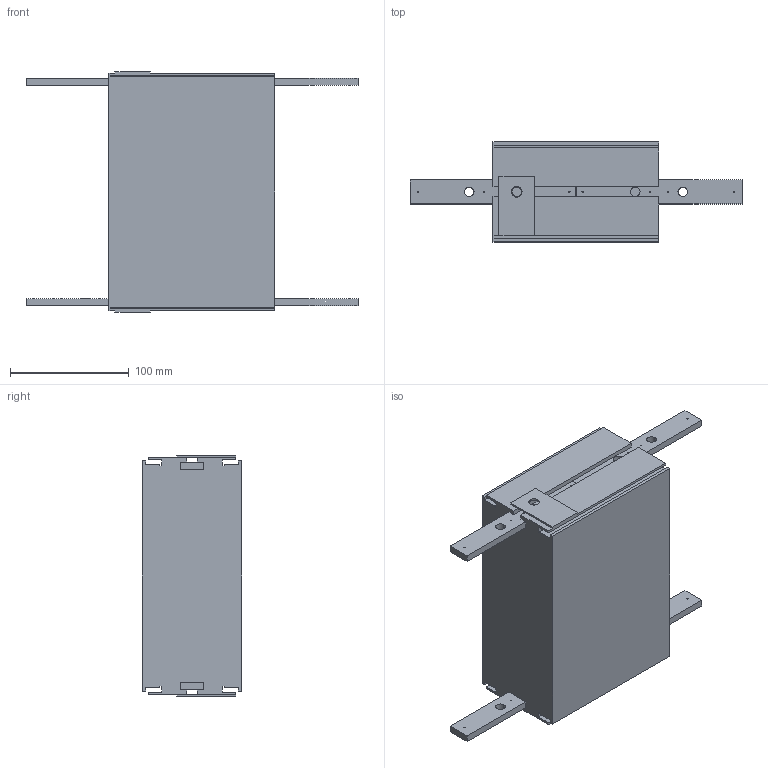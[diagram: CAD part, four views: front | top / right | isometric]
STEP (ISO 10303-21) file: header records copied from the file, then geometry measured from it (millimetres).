
FILE_DESCRIPTION (( 'STEP AP214' ), '1' );
FILE_NAME ('CS SL Kettingmontage.200.STEP', '2017-02-08T07:36:40', ( '' ), ( '' ), 'SwSTEP 2.0', 'SolidWorks 2016', '' );
FILE_SCHEMA (( 'AUTOMOTIVE_DESIGN' ));
Length unit declared in the file: millimetre
Products named in the file (1): CS SL Kettingmontage.200
Bounding box: 280 x 84 x 203 mm (x, y, z)
Volume: 2339536.4 mm3; surface area: 149230.1 mm2
Topology: 1 solids, 1 shells, 152 faces, 416 edges, 272 vertices
Faces by surface type: plane 100, cylinder 52
Entity records: 4902 total; most frequent: CARTESIAN_POINT 841, DIRECTION 834, ORIENTED_EDGE 832, EDGE_CURVE 416, LINE 304, VECTOR 304, VERTEX_POINT 272, AXIS2_PLACEMENT_3D 265
